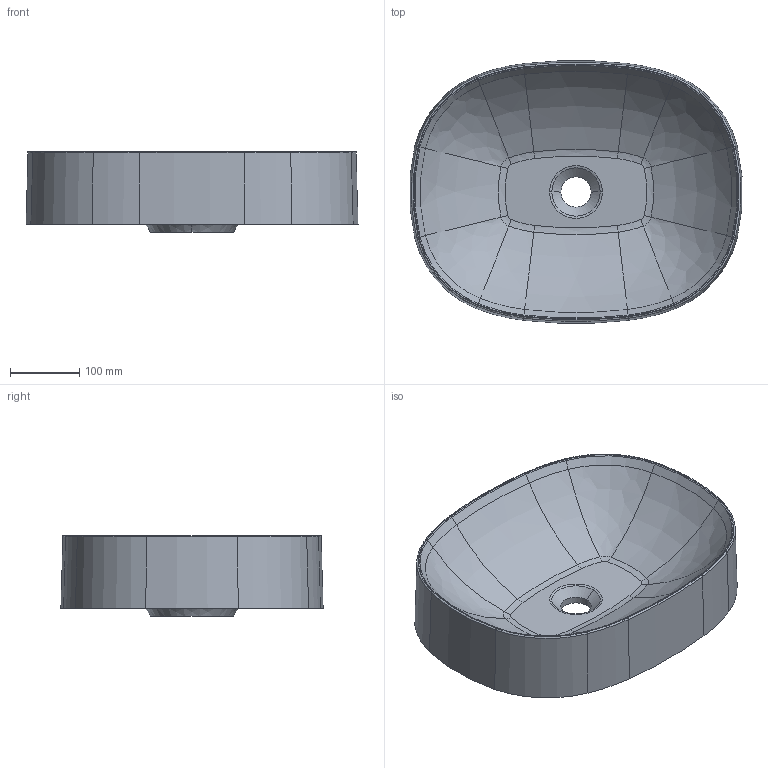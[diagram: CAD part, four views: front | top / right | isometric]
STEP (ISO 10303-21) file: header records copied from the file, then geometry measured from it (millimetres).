
FILE_DESCRIPTION(('FreeCAD Model'),'2;1');
FILE_NAME('Open CASCADE Shape Model','2024-11-19T15:18:14',('Author'),( ''),'Open CASCADE STEP processor 7.6','FreeCAD','Unknown');
FILE_SCHEMA(('AUTOMOTIVE_DESIGN { 1 0 10303 214 1 1 1 1 }'));
Length unit declared in the file: millimetre
Products named in the file (2): TopLevelAssembly; Połączona geometria bryłowa
Assembly tree (1 placements, depth 2):
  TopLevelAssembly
    Połączona geometria bryłowa
Bounding box: 479.85 x 379 x 117 mm (x, y, z)
Volume: 7611392.6 mm3; surface area: 493220.5 mm2
Topology: 1 solids, 1 shells, 85 faces, 192 edges, 110 vertices
Faces by surface type: bspline 78, plane 5, cylinder 2
Entity records: 2726 total; most frequent: CARTESIAN_POINT 967, ORIENTED_EDGE 384, DIRECTION 372, EDGE_CURVE 192, AXIS2_PLACEMENT_3D 171, CIRCLE 162, VERTEX_POINT 110, FACE_BOUND 88
